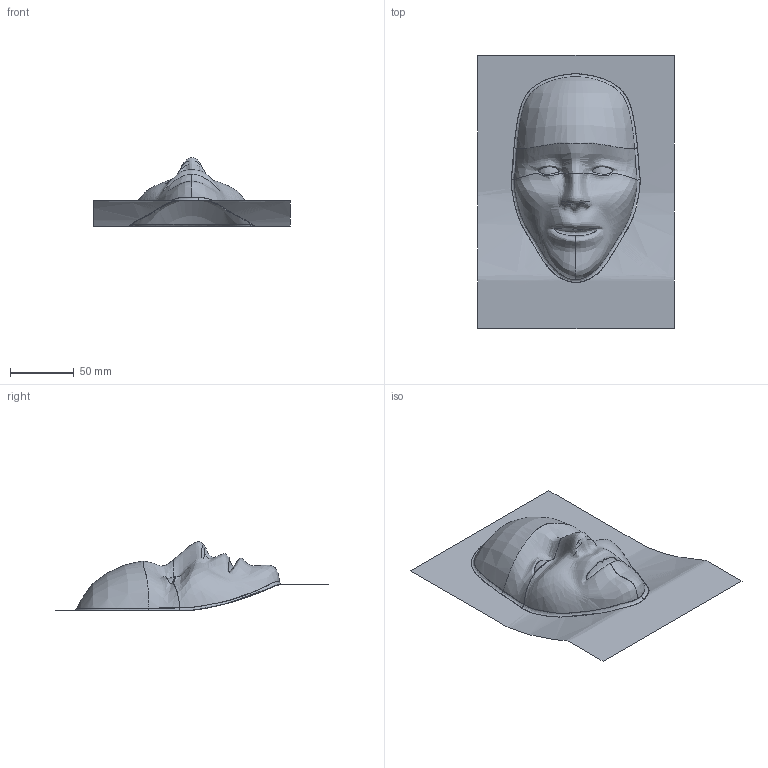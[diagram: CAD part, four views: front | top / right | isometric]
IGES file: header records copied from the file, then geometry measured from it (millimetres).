
Global section: file name: HUMANHEA.MC7; native system: MASTERCAM; preprocessor: 1; date: 040524.100541; units: inch
Bounding box: 153.67 x 213.57 x 53.71 mm (x, y, z)
Surface area: 40212.3 mm2 (no closed solid volume)
Topology: 0 solids, 0 shells, 11 faces, 2483 edges, 2499 vertices
Faces by surface type: bspline 11
